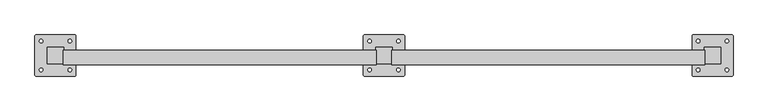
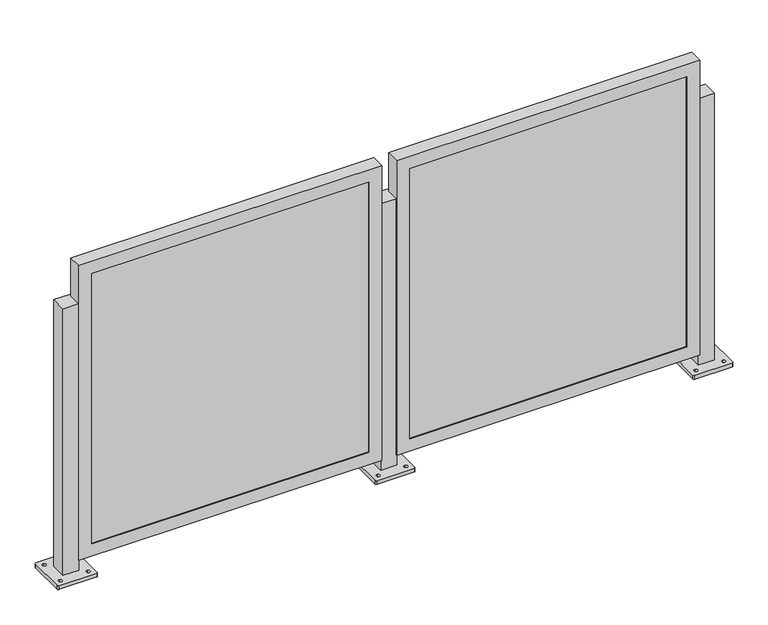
"""IFC4 building model written with IfcOpenShell, lengths in millimetres: railing geometry."""

from ifc_helpers import new_model, si_unit, frame, origin, place, context, project, spatial, polyline, circle_curve, outline, extrude, faceted_brep, source, transform, mapped, element, save
from ifc_brep_helpers import plane_surface, cylinder_surface, revolved_surface, advanced_brep


def railing_b0e1d4a2(model_context):
    return source(origin(), model_context, "Body", "SolidModel", [
        advanced_brep(
        [(-27024.2510122, -6796.0307329, 914.4), (-27024.2510122, -6846.8307329, 914.4), (-26973.4510122, -6846.8307329, 914.4), (-26973.4510122, -6796.0307329, 914.4), (-27062.3510123, -6881.7556919, 0.0), (-27062.3510123, -6761.105774, 0.0), (-27059.1759842, -6757.9307458, 0.0), (-26938.5260402, -6757.9307458, 0.0), (-26935.351012, -6761.105774, 0.0), (-26935.351012, -6881.7556919, 0.0), (-26938.5260402, -6884.9307201, 0.0), (-27059.1759842, -6884.9307201, 0.0), (-27043.3009997, -6871.4369876, 0.0), (-27043.3009997, -6860.3244751, 0.0), (-27043.3010106, -6782.5369832, 0.0), (-27043.3010106, -6771.4245016, 0.0), (-26954.4009988, -6871.4369861, 0.0), (-26954.4009988, -6860.3244754, 0.0), (-26954.4010097, -6782.5369817, 0.0), (-26954.4010097, -6771.4245019, 0.0), (-27024.2510122, -6796.0307329, 12.7), (-27024.2510122, -6846.8307329, 12.7), (-26973.4510122, -6846.8307329, 12.7), (-26973.4510122, -6796.0307329, 12.7), (-27062.3510123, -6881.7556919, 12.7), (-27059.1759842, -6884.9307201, 12.7), (-26938.5260402, -6884.9307201, 12.7), (-26935.351012, -6881.7556919, 12.7), (-26935.351012, -6761.105774, 12.7), (-26938.5260402, -6757.9307458, 12.7), (-27059.1759842, -6757.9307458, 12.7), (-27062.3510123, -6761.105774, 12.7), (-27043.3009997, -6871.4369876, 12.7), (-27043.3009997, -6860.3244751, 12.7), (-27043.3010106, -6782.5369832, 12.7), (-27043.3010106, -6771.4245016, 12.7), (-26954.4009988, -6871.4369861, 12.7), (-26954.4009988, -6860.3244754, 12.7), (-26954.4010097, -6782.5369817, 12.7), (-26954.4010097, -6771.4245019, 12.7)],
        [
            (0, 1),
            (1, 2),
            (2, 3),
            (3, 0),
            (4, 5),
            (5, 6, circle_curve(frame((-27059.1759842, -6761.105774, 0.0), z_axis=(0.0, 0.0, -1.0), x_axis=(0.0, 1.0, 0.0)), 3.1750282)),
            (6, 7),
            (7, 8, circle_curve(frame((-26938.5260402, -6761.105774, 0.0), z_axis=(0.0, 0.0, -1.0), x_axis=(0.0, 1.0, 0.0)), 3.1750282)),
            (8, 9),
            (9, 10, circle_curve(frame((-26938.5260402, -6881.7556919, 0.0), z_axis=(0.0, 0.0, -1.0), x_axis=(0.0, 1.0, 0.0)), 3.1750282)),
            (10, 11),
            (11, 4, circle_curve(frame((-27059.1759842, -6881.7556919, 0.0), z_axis=(0.0, 0.0, -1.0), x_axis=(0.0, 1.0, 0.0)), 3.1750282)),
            (12, 13, circle_curve(frame((-27043.3009997, -6865.8807314, 0.0), z_axis=(0.0, 0.0, 1.0), x_axis=(0.0, 1.0, 0.0)), 5.5562562)),
            (13, 12, circle_curve(frame((-27043.3009997, -6865.8807314, 0.0), z_axis=(0.0, 0.0, 1.0), x_axis=(0.0, 1.0, 0.0)), 5.5562562)),
            (14, 15, circle_curve(frame((-27043.3010106, -6776.9807424, 0.0), z_axis=(0.0, 0.0, 1.0), x_axis=(0.0, 1.0, 0.0)), 5.5562408)),
            (15, 14, circle_curve(frame((-27043.3010106, -6776.9807424, 0.0), z_axis=(0.0, 0.0, 1.0), x_axis=(0.0, 1.0, 0.0)), 5.5562408)),
            (16, 17, circle_curve(frame((-26954.4009988, -6865.8807307, 0.0), z_axis=(0.0, 0.0, 1.0), x_axis=(0.0, 1.0, 0.0)), 5.5562553)),
            (17, 16, circle_curve(frame((-26954.4009988, -6865.8807307, 0.0), z_axis=(0.0, 0.0, 1.0), x_axis=(0.0, 1.0, 0.0)), 5.5562553)),
            (18, 19, circle_curve(frame((-26954.4010097, -6776.9807418, 0.0), z_axis=(0.0, 0.0, 1.0), x_axis=(0.0, 1.0, 0.0)), 5.5562399)),
            (19, 18, circle_curve(frame((-26954.4010097, -6776.9807418, 0.0), z_axis=(0.0, 0.0, 1.0), x_axis=(0.0, 1.0, 0.0)), 5.5562399)),
            (0, 20),
            (20, 21),
            (21, 1),
            (21, 22),
            (22, 2),
            (22, 23),
            (23, 3),
            (23, 20),
            (24, 25, circle_curve(frame((-27059.1759842, -6881.7556919, 12.7), z_axis=(0.0, 0.0, 1.0), x_axis=(0.0, 1.0, 0.0)), 3.1750282)),
            (25, 26),
            (26, 27, circle_curve(frame((-26938.5260402, -6881.7556919, 12.7), z_axis=(0.0, 0.0, 1.0), x_axis=(0.0, 1.0, 0.0)), 3.1750282)),
            (27, 28),
            (28, 29, circle_curve(frame((-26938.5260402, -6761.105774, 12.7), z_axis=(0.0, 0.0, 1.0), x_axis=(0.0, 1.0, 0.0)), 3.1750282)),
            (29, 30),
            (30, 31, circle_curve(frame((-27059.1759842, -6761.105774, 12.7), z_axis=(0.0, 0.0, 1.0), x_axis=(0.0, 1.0, 0.0)), 3.1750282)),
            (31, 24),
            (32, 33, circle_curve(frame((-27043.3009997, -6865.8807314, 12.7), z_axis=(0.0, 0.0, -1.0), x_axis=(0.0, 1.0, 0.0)), 5.5562562)),
            (33, 32, circle_curve(frame((-27043.3009997, -6865.8807314, 12.7), z_axis=(0.0, 0.0, -1.0), x_axis=(0.0, 1.0, 0.0)), 5.5562562)),
            (34, 35, circle_curve(frame((-27043.3010106, -6776.9807424, 12.7), z_axis=(0.0, 0.0, -1.0), x_axis=(0.0, 1.0, 0.0)), 5.5562408)),
            (35, 34, circle_curve(frame((-27043.3010106, -6776.9807424, 12.7), z_axis=(0.0, 0.0, -1.0), x_axis=(0.0, 1.0, 0.0)), 5.5562408)),
            (36, 37, circle_curve(frame((-26954.4009988, -6865.8807307, 12.7), z_axis=(0.0, 0.0, -1.0), x_axis=(0.0, 1.0, 0.0)), 5.5562553)),
            (37, 36, circle_curve(frame((-26954.4009988, -6865.8807307, 12.7), z_axis=(0.0, 0.0, -1.0), x_axis=(0.0, 1.0, 0.0)), 5.5562553)),
            (38, 39, circle_curve(frame((-26954.4010097, -6776.9807418, 12.7), z_axis=(0.0, 0.0, -1.0), x_axis=(0.0, 1.0, 0.0)), 5.5562399)),
            (39, 38, circle_curve(frame((-26954.4010097, -6776.9807418, 12.7), z_axis=(0.0, 0.0, -1.0), x_axis=(0.0, 1.0, 0.0)), 5.5562399)),
            (24, 4),
            (11, 25),
            (10, 26),
            (9, 27),
            (8, 28),
            (7, 29),
            (6, 30),
            (5, 31),
            (32, 12),
            (13, 33),
            (34, 14),
            (15, 35),
            (36, 16),
            (17, 37),
            (38, 18),
            (19, 39),
        ],
        [
            plane_surface(frame((-27024.2510122, -6846.8307329, 914.4), z_axis=(0.0, 0.0, 1.0), x_axis=(0.0, -1.0, 0.0))),
            plane_surface(frame((-27024.2510122, -6846.8307329, 0.0), z_axis=(0.0, 0.0, -1.0), x_axis=(0.0, 1.0, 0.0))),
            plane_surface(frame((-27024.2510122, -6796.0307329, 914.4), z_axis=(-1.0, 0.0, 0.0), x_axis=(0.0, 0.0, -1.0))),
            plane_surface(frame((-27024.2510122, -6846.8307329, 914.4), z_axis=(0.0, -1.0, 0.0), x_axis=(0.0, 0.0, -1.0))),
            plane_surface(frame((-26973.4510122, -6846.8307329, 914.4), z_axis=(1.0, 0.0, 0.0), x_axis=(0.0, 0.0, -1.0))),
            plane_surface(frame((-26973.4510122, -6796.0307329, 914.4), z_axis=(0.0, 1.0, 0.0), x_axis=(0.0, 0.0, -1.0))),
            plane_surface(frame((-27059.1759842, -6878.5806638, 12.7), z_axis=(0.0, 0.0, 1.0), x_axis=(-1.0, 0.0, 0.0))),
            cylinder_surface(frame((-27059.1759842, -6881.7556919, 0.0), z_axis=(0.0, 0.0, 1.0), x_axis=(0.0, 1.0, 0.0)), 3.1750282),
            plane_surface(frame((-27059.1759842, -6884.9307201, 12.7), z_axis=(1.1945386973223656e-12, -1.0, 0.0), x_axis=(0.0, 0.0, -1.0))),
            cylinder_surface(frame((-26938.5260402, -6881.7556919, 0.0), z_axis=(0.0, 0.0, 1.0), x_axis=(0.0, 1.0, 0.0)), 3.1750282),
            plane_surface(frame((-26935.351012, -6881.7556919, 12.7), z_axis=(1.0, 0.0, 0.0), x_axis=(0.0, 0.0, -1.0))),
            cylinder_surface(frame((-26938.5260402, -6761.105774, 0.0), z_axis=(0.0, 0.0, 1.0), x_axis=(0.0, 1.0, 0.0)), 3.1750282),
            plane_surface(frame((-26938.5260402, -6757.9307458, 12.7), z_axis=(-1.1946088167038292e-12, 1.0, 0.0), x_axis=(0.0, 0.0, -1.0))),
            cylinder_surface(frame((-27059.1759842, -6761.105774, 0.0), z_axis=(0.0, 0.0, 1.0), x_axis=(0.0, 1.0, 0.0)), 3.1750282),
            plane_surface(frame((-27062.3510123, -6761.105774, 12.7), z_axis=(-1.0, 0.0, 0.0), x_axis=(0.0, 0.0, -1.0))),
            revolved_surface(polyline([(-27043.3009997, -6860.3244752, 0.0), (-27043.3009997, -6860.3244752, 12.7)]), (-27043.3009997, -6865.8807314, 0.0), (0.0, 0.0, -1.0)),
            revolved_surface(polyline([(-27043.3010106, -6771.4245016, 0.0), (-27043.3010106, -6771.4245016, 12.7)]), (-27043.3010106, -6776.9807424, 0.0), (0.0, 0.0, -1.0)),
            revolved_surface(polyline([(-26954.4009988, -6860.3244754, 0.0), (-26954.4009988, -6860.3244754, 12.7)]), (-26954.4009988, -6865.8807307, 0.0), (0.0, 0.0, -1.0)),
            revolved_surface(polyline([(-26954.4010097, -6771.4245019, 0.0), (-26954.4010097, -6771.4245019, 12.7)]), (-26954.4010097, -6776.9807418, 0.0), (0.0, 0.0, -1.0)),
        ],
        [
            (0, [[1, 2, 3, 4]]),
            (1, [[5, 6, 7, 8, 9, 10, 11, 12], [13, 14], [15, 16], [17, 18], [19, 20]]),
            (2, [[-1, 21, 22, 23]]),
            (3, [[-2, -23, 24, 25]]),
            (4, [[-3, -25, 26, 27]]),
            (5, [[-4, -27, 28, -21]]),
            (6, [[29, 30, 31, 32, 33, 34, 35, 36], [-22, -28, -26, -24], [37, 38], [39, 40], [41, 42], [43, 44]]),
            (7, [[-29, 45, -12, 46]]),
            (8, [[-30, -46, -11, 47]]),
            (9, [[-31, -47, -10, 48]]),
            (10, [[-32, -48, -9, 49]]),
            (11, [[-33, -49, -8, 50]]),
            (12, [[-34, -50, -7, 51]]),
            (13, [[-35, -51, -6, 52]]),
            (14, [[-36, -52, -5, -45]]),
            (15, [[-37, 53, -14, 54]]),
            (15, [[-38, -54, -13, -53]]),
            (16, [[-39, 55, -16, 56]]),
            (16, [[-40, -56, -15, -55]]),
            (17, [[-41, 57, -18, 58]]),
            (17, [[-42, -58, -17, -57]]),
            (18, [[-43, 59, -20, 60]]),
            (18, [[-44, -60, -19, -59]]),
        ],
    ),
        faceted_brep([(-27990.6554656, -6849.5739329, 47.625), (-27022.2804656, -6849.5739329, 47.625), (-27022.2804656, -6849.5739329, 1044.575), (-27990.6554656, -6849.5739329, 1044.575), (-27949.3804656, -6849.5739329, 1003.3), (-27063.5554656, -6849.5739329, 1003.3), (-27063.5554656, -6849.5739329, 88.9), (-27949.3804656, -6849.5739329, 88.9), (-27949.3804656, -6846.8307329, 1003.3), (-27949.3804656, -6846.8307329, 88.9), (-27990.6554656, -6805.7006364, 1044.575), (-27990.6554656, -6805.7006364, 47.625), (-27987.4804656, -6805.7006364, 1041.4), (-27987.4804656, -6846.8307329, 1041.4), (-27987.4804656, -6846.8307329, 50.8), (-27987.4804656, -6805.7006364, 50.8), (-27063.5554656, -6846.8307329, 88.9), (-27022.2804656, -6805.7006364, 47.625), (-27025.4554656, -6846.8307329, 50.8), (-27025.4554656, -6805.7006364, 50.8), (-27063.5554656, -6846.8307329, 1003.3), (-27022.2804656, -6805.7006364, 1044.575), (-27025.4554656, -6846.8307329, 1041.4), (-27025.4554656, -6805.7006364, 1041.4)], [[[0, 1, 2, 3], [4, 5, 6, 7]], [[8, 4, 7, 9]], [[3, 10, 11, 0]], [[12, 13, 14, 15]], [[9, 7, 6, 16]], [[0, 11, 17, 1]], [[15, 14, 18, 19]], [[16, 6, 5, 20]], [[1, 17, 21, 2]], [[19, 18, 22, 23]], [[20, 5, 4, 8]], [[10, 21, 17, 11], [15, 19, 23, 12]], [[2, 21, 10, 3]], [[13, 22, 18, 14], [9, 16, 20, 8]], [[23, 22, 13, 12]]]),
        extrude(outline(polyline([(-27987.4804656, -6837.3057329), (-27025.4554656, -6837.3057329), (-27025.4554656, -6846.8307329), (-27987.4804656, -6846.8307329), (-27987.4804656, -6837.3057329)])), frame((0.0, 0.0, 50.8), z_axis=(0.0, 0.0, 1.0), x_axis=(1.0, 0.0, 0.0)), (0.0, 0.0, 1.0), 990.6),
        advanced_brep(
        [(-28040.2510122, -6796.0307329, 914.4), (-28040.2510122, -6846.8307329, 914.4), (-27989.4510122, -6846.8307329, 914.4), (-27989.4510122, -6796.0307329, 914.4), (-28078.3510123, -6881.7556919, 0.0), (-28078.3510123, -6761.105774, 0.0), (-28075.1759842, -6757.9307458, 0.0), (-27954.5260402, -6757.9307458, 0.0), (-27951.351012, -6761.105774, 0.0), (-27951.351012, -6881.7556919, 0.0), (-27954.5260402, -6884.9307201, 0.0), (-28075.1759842, -6884.9307201, 0.0), (-28059.3009997, -6871.4369876, 0.0), (-28059.3009997, -6860.3244751, 0.0), (-28059.3010106, -6782.5369832, 0.0), (-28059.3010106, -6771.4245016, 0.0), (-27970.4009988, -6871.4369861, 0.0), (-27970.4009988, -6860.3244754, 0.0), (-27970.4010097, -6782.5369817, 0.0), (-27970.4010097, -6771.4245019, 0.0), (-28040.2510122, -6796.0307329, 12.7), (-28040.2510122, -6846.8307329, 12.7), (-27989.4510122, -6846.8307329, 12.7), (-27989.4510122, -6796.0307329, 12.7), (-28078.3510123, -6881.7556919, 12.7), (-28075.1759842, -6884.9307201, 12.7), (-27954.5260402, -6884.9307201, 12.7), (-27951.351012, -6881.7556919, 12.7), (-27951.351012, -6761.105774, 12.7), (-27954.5260402, -6757.9307458, 12.7), (-28075.1759842, -6757.9307458, 12.7), (-28078.3510123, -6761.105774, 12.7), (-28059.3009997, -6871.4369876, 12.7), (-28059.3009997, -6860.3244751, 12.7), (-28059.3010106, -6782.5369832, 12.7), (-28059.3010106, -6771.4245016, 12.7), (-27970.4009988, -6871.4369861, 12.7), (-27970.4009988, -6860.3244754, 12.7), (-27970.4010097, -6782.5369817, 12.7), (-27970.4010097, -6771.4245019, 12.7)],
        [
            (0, 1),
            (1, 2),
            (2, 3),
            (3, 0),
            (4, 5),
            (5, 6, circle_curve(frame((-28075.1759842, -6761.105774, 0.0), z_axis=(0.0, 0.0, -1.0), x_axis=(0.0, 1.0, 0.0)), 3.1750282)),
            (6, 7),
            (7, 8, circle_curve(frame((-27954.5260402, -6761.105774, 0.0), z_axis=(0.0, 0.0, -1.0), x_axis=(0.0, 1.0, 0.0)), 3.1750282)),
            (8, 9),
            (9, 10, circle_curve(frame((-27954.5260402, -6881.7556919, 0.0), z_axis=(0.0, 0.0, -1.0), x_axis=(0.0, 1.0, 0.0)), 3.1750282)),
            (10, 11),
            (11, 4, circle_curve(frame((-28075.1759842, -6881.7556919, 0.0), z_axis=(0.0, 0.0, -1.0), x_axis=(0.0, 1.0, 0.0)), 3.1750282)),
            (12, 13, circle_curve(frame((-28059.3009997, -6865.8807314, 0.0), z_axis=(0.0, 0.0, 1.0), x_axis=(0.0, 1.0, 0.0)), 5.5562562)),
            (13, 12, circle_curve(frame((-28059.3009997, -6865.8807314, 0.0), z_axis=(0.0, 0.0, 1.0), x_axis=(0.0, 1.0, 0.0)), 5.5562562)),
            (14, 15, circle_curve(frame((-28059.3010106, -6776.9807424, 0.0), z_axis=(0.0, 0.0, 1.0), x_axis=(0.0, 1.0, 0.0)), 5.5562408)),
            (15, 14, circle_curve(frame((-28059.3010106, -6776.9807424, 0.0), z_axis=(0.0, 0.0, 1.0), x_axis=(0.0, 1.0, 0.0)), 5.5562408)),
            (16, 17, circle_curve(frame((-27970.4009988, -6865.8807307, 0.0), z_axis=(0.0, 0.0, 1.0), x_axis=(0.0, 1.0, 0.0)), 5.5562553)),
            (17, 16, circle_curve(frame((-27970.4009988, -6865.8807307, 0.0), z_axis=(0.0, 0.0, 1.0), x_axis=(0.0, 1.0, 0.0)), 5.5562553)),
            (18, 19, circle_curve(frame((-27970.4010097, -6776.9807418, 0.0), z_axis=(0.0, 0.0, 1.0), x_axis=(0.0, 1.0, 0.0)), 5.5562399)),
            (19, 18, circle_curve(frame((-27970.4010097, -6776.9807418, 0.0), z_axis=(0.0, 0.0, 1.0), x_axis=(0.0, 1.0, 0.0)), 5.5562399)),
            (0, 20),
            (20, 21),
            (21, 1),
            (21, 22),
            (22, 2),
            (22, 23),
            (23, 3),
            (23, 20),
            (24, 25, circle_curve(frame((-28075.1759842, -6881.7556919, 12.7), z_axis=(0.0, 0.0, 1.0), x_axis=(0.0, 1.0, 0.0)), 3.1750282)),
            (25, 26),
            (26, 27, circle_curve(frame((-27954.5260402, -6881.7556919, 12.7), z_axis=(0.0, 0.0, 1.0), x_axis=(0.0, 1.0, 0.0)), 3.1750282)),
            (27, 28),
            (28, 29, circle_curve(frame((-27954.5260402, -6761.105774, 12.7), z_axis=(0.0, 0.0, 1.0), x_axis=(0.0, 1.0, 0.0)), 3.1750282)),
            (29, 30),
            (30, 31, circle_curve(frame((-28075.1759842, -6761.105774, 12.7), z_axis=(0.0, 0.0, 1.0), x_axis=(0.0, 1.0, 0.0)), 3.1750282)),
            (31, 24),
            (32, 33, circle_curve(frame((-28059.3009997, -6865.8807314, 12.7), z_axis=(0.0, 0.0, -1.0), x_axis=(0.0, 1.0, 0.0)), 5.5562562)),
            (33, 32, circle_curve(frame((-28059.3009997, -6865.8807314, 12.7), z_axis=(0.0, 0.0, -1.0), x_axis=(0.0, 1.0, 0.0)), 5.5562562)),
            (34, 35, circle_curve(frame((-28059.3010106, -6776.9807424, 12.7), z_axis=(0.0, 0.0, -1.0), x_axis=(0.0, 1.0, 0.0)), 5.5562408)),
            (35, 34, circle_curve(frame((-28059.3010106, -6776.9807424, 12.7), z_axis=(0.0, 0.0, -1.0), x_axis=(0.0, 1.0, 0.0)), 5.5562408)),
            (36, 37, circle_curve(frame((-27970.4009988, -6865.8807307, 12.7), z_axis=(0.0, 0.0, -1.0), x_axis=(0.0, 1.0, 0.0)), 5.5562553)),
            (37, 36, circle_curve(frame((-27970.4009988, -6865.8807307, 12.7), z_axis=(0.0, 0.0, -1.0), x_axis=(0.0, 1.0, 0.0)), 5.5562553)),
            (38, 39, circle_curve(frame((-27970.4010097, -6776.9807418, 12.7), z_axis=(0.0, 0.0, -1.0), x_axis=(0.0, 1.0, 0.0)), 5.5562399)),
            (39, 38, circle_curve(frame((-27970.4010097, -6776.9807418, 12.7), z_axis=(0.0, 0.0, -1.0), x_axis=(0.0, 1.0, 0.0)), 5.5562399)),
            (24, 4),
            (11, 25),
            (10, 26),
            (9, 27),
            (8, 28),
            (7, 29),
            (6, 30),
            (5, 31),
            (32, 12),
            (13, 33),
            (34, 14),
            (15, 35),
            (36, 16),
            (17, 37),
            (38, 18),
            (19, 39),
        ],
        [
            plane_surface(frame((-28040.2510122, -6846.8307329, 914.4), z_axis=(0.0, 0.0, 1.0), x_axis=(0.0, -1.0, 0.0))),
            plane_surface(frame((-28040.2510122, -6846.8307329, 0.0), z_axis=(0.0, 0.0, -1.0), x_axis=(0.0, 1.0, 0.0))),
            plane_surface(frame((-28040.2510122, -6796.0307329, 914.4), z_axis=(-1.0, 0.0, 0.0), x_axis=(0.0, 0.0, -1.0))),
            plane_surface(frame((-28040.2510122, -6846.8307329, 914.4), z_axis=(0.0, -1.0, 0.0), x_axis=(0.0, 0.0, -1.0))),
            plane_surface(frame((-27989.4510122, -6846.8307329, 914.4), z_axis=(1.0, 0.0, 0.0), x_axis=(0.0, 0.0, -1.0))),
            plane_surface(frame((-27989.4510122, -6796.0307329, 914.4), z_axis=(0.0, 1.0, 0.0), x_axis=(0.0, 0.0, -1.0))),
            plane_surface(frame((-28075.1759842, -6878.5806638, 12.7), z_axis=(0.0, 0.0, 1.0), x_axis=(-1.0, 0.0, 0.0))),
            cylinder_surface(frame((-28075.1759842, -6881.7556919, 0.0), z_axis=(0.0, 0.0, 1.0), x_axis=(0.0, 1.0, 0.0)), 3.1750282),
            plane_surface(frame((-28075.1759842, -6884.9307201, 12.7), z_axis=(1.1945386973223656e-12, -1.0, 0.0), x_axis=(0.0, 0.0, -1.0))),
            cylinder_surface(frame((-27954.5260402, -6881.7556919, 0.0), z_axis=(0.0, 0.0, 1.0), x_axis=(0.0, 1.0, 0.0)), 3.1750282),
            plane_surface(frame((-27951.351012, -6881.7556919, 12.7), z_axis=(1.0, 0.0, 0.0), x_axis=(0.0, 0.0, -1.0))),
            cylinder_surface(frame((-27954.5260402, -6761.105774, 0.0), z_axis=(0.0, 0.0, 1.0), x_axis=(0.0, 1.0, 0.0)), 3.1750282),
            plane_surface(frame((-27954.5260402, -6757.9307458, 12.7), z_axis=(-1.1946088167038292e-12, 1.0, 0.0), x_axis=(0.0, 0.0, -1.0))),
            cylinder_surface(frame((-28075.1759842, -6761.105774, 0.0), z_axis=(0.0, 0.0, 1.0), x_axis=(0.0, 1.0, 0.0)), 3.1750282),
            plane_surface(frame((-28078.3510123, -6761.105774, 12.7), z_axis=(-1.0, 0.0, 0.0), x_axis=(0.0, 0.0, -1.0))),
            revolved_surface(polyline([(-28059.3009997, -6860.3244752, 0.0), (-28059.3009997, -6860.3244752, 12.7)]), (-28059.3009997, -6865.8807314, 0.0), (0.0, 0.0, -1.0)),
            revolved_surface(polyline([(-28059.3010106, -6771.4245016, 0.0), (-28059.3010106, -6771.4245016, 12.7)]), (-28059.3010106, -6776.9807424, 0.0), (0.0, 0.0, -1.0)),
            revolved_surface(polyline([(-27970.4009988, -6860.3244754, 0.0), (-27970.4009988, -6860.3244754, 12.7)]), (-27970.4009988, -6865.8807307, 0.0), (0.0, 0.0, -1.0)),
            revolved_surface(polyline([(-27970.4010097, -6771.4245019, 0.0), (-27970.4010097, -6771.4245019, 12.7)]), (-27970.4010097, -6776.9807418, 0.0), (0.0, 0.0, -1.0)),
        ],
        [
            (0, [[1, 2, 3, 4]]),
            (1, [[5, 6, 7, 8, 9, 10, 11, 12], [13, 14], [15, 16], [17, 18], [19, 20]]),
            (2, [[-1, 21, 22, 23]]),
            (3, [[-2, -23, 24, 25]]),
            (4, [[-3, -25, 26, 27]]),
            (5, [[-4, -27, 28, -21]]),
            (6, [[29, 30, 31, 32, 33, 34, 35, 36], [-22, -28, -26, -24], [37, 38], [39, 40], [41, 42], [43, 44]]),
            (7, [[-29, 45, -12, 46]]),
            (8, [[-30, -46, -11, 47]]),
            (9, [[-31, -47, -10, 48]]),
            (10, [[-32, -48, -9, 49]]),
            (11, [[-33, -49, -8, 50]]),
            (12, [[-34, -50, -7, 51]]),
            (13, [[-35, -51, -6, 52]]),
            (14, [[-36, -52, -5, -45]]),
            (15, [[-37, 53, -14, 54]]),
            (15, [[-38, -54, -13, -53]]),
            (16, [[-39, 55, -16, 56]]),
            (16, [[-40, -56, -15, -55]]),
            (17, [[-41, 57, -18, 58]]),
            (17, [[-42, -58, -17, -57]]),
            (18, [[-43, 59, -20, 60]]),
            (18, [[-44, -60, -19, -59]]),
        ],
    ),
        faceted_brep([(-29006.6554656, -6849.5739329, 47.625), (-28038.2804656, -6849.5739329, 47.625), (-28038.2804656, -6849.5739329, 1044.575), (-29006.6554656, -6849.5739329, 1044.575), (-28965.3804656, -6849.5739329, 1003.3), (-28079.5554656, -6849.5739329, 1003.3), (-28079.5554656, -6849.5739329, 88.9), (-28965.3804656, -6849.5739329, 88.9), (-28965.3804656, -6846.8307329, 1003.3), (-28965.3804656, -6846.8307329, 88.9), (-29006.6554656, -6805.7006364, 1044.575), (-29006.6554656, -6805.7006364, 47.625), (-29003.4804656, -6805.7006364, 1041.4), (-29003.4804656, -6846.8307329, 1041.4), (-29003.4804656, -6846.8307329, 50.8), (-29003.4804656, -6805.7006364, 50.8), (-28079.5554656, -6846.8307329, 88.9), (-28038.2804656, -6805.7006364, 47.625), (-28041.4554656, -6846.8307329, 50.8), (-28041.4554656, -6805.7006364, 50.8), (-28079.5554656, -6846.8307329, 1003.3), (-28038.2804656, -6805.7006364, 1044.575), (-28041.4554656, -6846.8307329, 1041.4), (-28041.4554656, -6805.7006364, 1041.4)], [[[0, 1, 2, 3], [4, 5, 6, 7]], [[8, 4, 7, 9]], [[3, 10, 11, 0]], [[12, 13, 14, 15]], [[9, 7, 6, 16]], [[0, 11, 17, 1]], [[15, 14, 18, 19]], [[16, 6, 5, 20]], [[1, 17, 21, 2]], [[19, 18, 22, 23]], [[20, 5, 4, 8]], [[10, 21, 17, 11], [15, 19, 23, 12]], [[2, 21, 10, 3]], [[13, 22, 18, 14], [9, 16, 20, 8]], [[23, 22, 13, 12]]]),
        extrude(outline(polyline([(-29003.4804656, -6837.3057329), (-28041.4554656, -6837.3057329), (-28041.4554656, -6846.8307329), (-29003.4804656, -6846.8307329), (-29003.4804656, -6837.3057329)])), frame((0.0, 0.0, 50.8), z_axis=(0.0, 0.0, 1.0), x_axis=(1.0, 0.0, 0.0)), (0.0, 0.0, 1.0), 990.6),
        advanced_brep(
        [(-29056.2510122, -6796.0307329, 914.4), (-29056.2510122, -6846.8307329, 914.4), (-29005.4510122, -6846.8307329, 914.4), (-29005.4510122, -6796.0307329, 914.4), (-29094.3510123, -6881.7556919, 0.0), (-29094.3510123, -6761.105774, 0.0), (-29091.1759842, -6757.9307458, 0.0), (-28970.5260402, -6757.9307458, 0.0), (-28967.351012, -6761.105774, 0.0), (-28967.351012, -6881.7556919, 0.0), (-28970.5260402, -6884.9307201, 0.0), (-29091.1759842, -6884.9307201, 0.0), (-29075.3009997, -6871.4369876, 0.0), (-29075.3009997, -6860.3244751, 0.0), (-29075.3010106, -6782.5369832, 0.0), (-29075.3010106, -6771.4245016, 0.0), (-28986.4009988, -6871.4369861, 0.0), (-28986.4009988, -6860.3244754, 0.0), (-28986.4010097, -6782.5369817, 0.0), (-28986.4010097, -6771.4245019, 0.0), (-29056.2510122, -6796.0307329, 12.7), (-29056.2510122, -6846.8307329, 12.7), (-29005.4510122, -6846.8307329, 12.7), (-29005.4510122, -6796.0307329, 12.7), (-29094.3510123, -6881.7556919, 12.7), (-29091.1759842, -6884.9307201, 12.7), (-28970.5260402, -6884.9307201, 12.7), (-28967.351012, -6881.7556919, 12.7), (-28967.351012, -6761.105774, 12.7), (-28970.5260402, -6757.9307458, 12.7), (-29091.1759842, -6757.9307458, 12.7), (-29094.3510123, -6761.105774, 12.7), (-29075.3009997, -6871.4369876, 12.7), (-29075.3009997, -6860.3244751, 12.7), (-29075.3010106, -6782.5369832, 12.7), (-29075.3010106, -6771.4245016, 12.7), (-28986.4009988, -6871.4369861, 12.7), (-28986.4009988, -6860.3244754, 12.7), (-28986.4010097, -6782.5369817, 12.7), (-28986.4010097, -6771.4245019, 12.7)],
        [
            (0, 1),
            (1, 2),
            (2, 3),
            (3, 0),
            (4, 5),
            (5, 6, circle_curve(frame((-29091.1759842, -6761.105774, 0.0), z_axis=(0.0, 0.0, -1.0), x_axis=(0.0, 1.0, 0.0)), 3.1750282)),
            (6, 7),
            (7, 8, circle_curve(frame((-28970.5260402, -6761.105774, 0.0), z_axis=(0.0, 0.0, -1.0), x_axis=(0.0, 1.0, 0.0)), 3.1750282)),
            (8, 9),
            (9, 10, circle_curve(frame((-28970.5260402, -6881.7556919, 0.0), z_axis=(0.0, 0.0, -1.0), x_axis=(0.0, 1.0, 0.0)), 3.1750282)),
            (10, 11),
            (11, 4, circle_curve(frame((-29091.1759842, -6881.7556919, 0.0), z_axis=(0.0, 0.0, -1.0), x_axis=(0.0, 1.0, 0.0)), 3.1750282)),
            (12, 13, circle_curve(frame((-29075.3009997, -6865.8807314, 0.0), z_axis=(0.0, 0.0, 1.0), x_axis=(0.0, 1.0, 0.0)), 5.5562562)),
            (13, 12, circle_curve(frame((-29075.3009997, -6865.8807314, 0.0), z_axis=(0.0, 0.0, 1.0), x_axis=(0.0, 1.0, 0.0)), 5.5562562)),
            (14, 15, circle_curve(frame((-29075.3010106, -6776.9807424, 0.0), z_axis=(0.0, 0.0, 1.0), x_axis=(0.0, 1.0, 0.0)), 5.5562408)),
            (15, 14, circle_curve(frame((-29075.3010106, -6776.9807424, 0.0), z_axis=(0.0, 0.0, 1.0), x_axis=(0.0, 1.0, 0.0)), 5.5562408)),
            (16, 17, circle_curve(frame((-28986.4009988, -6865.8807307, 0.0), z_axis=(0.0, 0.0, 1.0), x_axis=(0.0, 1.0, 0.0)), 5.5562553)),
            (17, 16, circle_curve(frame((-28986.4009988, -6865.8807307, 0.0), z_axis=(0.0, 0.0, 1.0), x_axis=(0.0, 1.0, 0.0)), 5.5562553)),
            (18, 19, circle_curve(frame((-28986.4010097, -6776.9807418, 0.0), z_axis=(0.0, 0.0, 1.0), x_axis=(0.0, 1.0, 0.0)), 5.5562399)),
            (19, 18, circle_curve(frame((-28986.4010097, -6776.9807418, 0.0), z_axis=(0.0, 0.0, 1.0), x_axis=(0.0, 1.0, 0.0)), 5.5562399)),
            (0, 20),
            (20, 21),
            (21, 1),
            (21, 22),
            (22, 2),
            (22, 23),
            (23, 3),
            (23, 20),
            (24, 25, circle_curve(frame((-29091.1759842, -6881.7556919, 12.7), z_axis=(0.0, 0.0, 1.0), x_axis=(0.0, 1.0, 0.0)), 3.1750282)),
            (25, 26),
            (26, 27, circle_curve(frame((-28970.5260402, -6881.7556919, 12.7), z_axis=(0.0, 0.0, 1.0), x_axis=(0.0, 1.0, 0.0)), 3.1750282)),
            (27, 28),
            (28, 29, circle_curve(frame((-28970.5260402, -6761.105774, 12.7), z_axis=(0.0, 0.0, 1.0), x_axis=(0.0, 1.0, 0.0)), 3.1750282)),
            (29, 30),
            (30, 31, circle_curve(frame((-29091.1759842, -6761.105774, 12.7), z_axis=(0.0, 0.0, 1.0), x_axis=(0.0, 1.0, 0.0)), 3.1750282)),
            (31, 24),
            (32, 33, circle_curve(frame((-29075.3009997, -6865.8807314, 12.7), z_axis=(0.0, 0.0, -1.0), x_axis=(0.0, 1.0, 0.0)), 5.5562562)),
            (33, 32, circle_curve(frame((-29075.3009997, -6865.8807314, 12.7), z_axis=(0.0, 0.0, -1.0), x_axis=(0.0, 1.0, 0.0)), 5.5562562)),
            (34, 35, circle_curve(frame((-29075.3010106, -6776.9807424, 12.7), z_axis=(0.0, 0.0, -1.0), x_axis=(0.0, 1.0, 0.0)), 5.5562408)),
            (35, 34, circle_curve(frame((-29075.3010106, -6776.9807424, 12.7), z_axis=(0.0, 0.0, -1.0), x_axis=(0.0, 1.0, 0.0)), 5.5562408)),
            (36, 37, circle_curve(frame((-28986.4009988, -6865.8807307, 12.7), z_axis=(0.0, 0.0, -1.0), x_axis=(0.0, 1.0, 0.0)), 5.5562553)),
            (37, 36, circle_curve(frame((-28986.4009988, -6865.8807307, 12.7), z_axis=(0.0, 0.0, -1.0), x_axis=(0.0, 1.0, 0.0)), 5.5562553)),
            (38, 39, circle_curve(frame((-28986.4010097, -6776.9807418, 12.7), z_axis=(0.0, 0.0, -1.0), x_axis=(0.0, 1.0, 0.0)), 5.5562399)),
            (39, 38, circle_curve(frame((-28986.4010097, -6776.9807418, 12.7), z_axis=(0.0, 0.0, -1.0), x_axis=(0.0, 1.0, 0.0)), 5.5562399)),
            (24, 4),
            (11, 25),
            (10, 26),
            (9, 27),
            (8, 28),
            (7, 29),
            (6, 30),
            (5, 31),
            (32, 12),
            (13, 33),
            (34, 14),
            (15, 35),
            (36, 16),
            (17, 37),
            (38, 18),
            (19, 39),
        ],
        [
            plane_surface(frame((-29056.2510122, -6846.8307329, 914.4), z_axis=(0.0, 0.0, 1.0), x_axis=(0.0, -1.0, 0.0))),
            plane_surface(frame((-29056.2510122, -6846.8307329, 0.0), z_axis=(0.0, 0.0, -1.0), x_axis=(0.0, 1.0, 0.0))),
            plane_surface(frame((-29056.2510122, -6796.0307329, 914.4), z_axis=(-1.0, 0.0, 0.0), x_axis=(0.0, 0.0, -1.0))),
            plane_surface(frame((-29056.2510122, -6846.8307329, 914.4), z_axis=(0.0, -1.0, 0.0), x_axis=(0.0, 0.0, -1.0))),
            plane_surface(frame((-29005.4510122, -6846.8307329, 914.4), z_axis=(1.0, 0.0, 0.0), x_axis=(0.0, 0.0, -1.0))),
            plane_surface(frame((-29005.4510122, -6796.0307329, 914.4), z_axis=(0.0, 1.0, 0.0), x_axis=(0.0, 0.0, -1.0))),
            plane_surface(frame((-29091.1759842, -6878.5806638, 12.7), z_axis=(0.0, 0.0, 1.0), x_axis=(-1.0, 0.0, 0.0))),
            cylinder_surface(frame((-29091.1759842, -6881.7556919, 0.0), z_axis=(0.0, 0.0, 1.0), x_axis=(0.0, 1.0, 0.0)), 3.1750282),
            plane_surface(frame((-29091.1759842, -6884.9307201, 12.7), z_axis=(1.1945386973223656e-12, -1.0, 0.0), x_axis=(0.0, 0.0, -1.0))),
            cylinder_surface(frame((-28970.5260402, -6881.7556919, 0.0), z_axis=(0.0, 0.0, 1.0), x_axis=(0.0, 1.0, 0.0)), 3.1750282),
            plane_surface(frame((-28967.351012, -6881.7556919, 12.7), z_axis=(1.0, 0.0, 0.0), x_axis=(0.0, 0.0, -1.0))),
            cylinder_surface(frame((-28970.5260402, -6761.105774, 0.0), z_axis=(0.0, 0.0, 1.0), x_axis=(0.0, 1.0, 0.0)), 3.1750282),
            plane_surface(frame((-28970.5260402, -6757.9307458, 12.7), z_axis=(-1.1946088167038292e-12, 1.0, 0.0), x_axis=(0.0, 0.0, -1.0))),
            cylinder_surface(frame((-29091.1759842, -6761.105774, 0.0), z_axis=(0.0, 0.0, 1.0), x_axis=(0.0, 1.0, 0.0)), 3.1750282),
            plane_surface(frame((-29094.3510123, -6761.105774, 12.7), z_axis=(-1.0, 0.0, 0.0), x_axis=(0.0, 0.0, -1.0))),
            revolved_surface(polyline([(-29075.3009997, -6860.3244752, 0.0), (-29075.3009997, -6860.3244752, 12.7)]), (-29075.3009997, -6865.8807314, 0.0), (0.0, 0.0, -1.0)),
            revolved_surface(polyline([(-29075.3010106, -6771.4245016, 0.0), (-29075.3010106, -6771.4245016, 12.7)]), (-29075.3010106, -6776.9807424, 0.0), (0.0, 0.0, -1.0)),
            revolved_surface(polyline([(-28986.4009988, -6860.3244754, 0.0), (-28986.4009988, -6860.3244754, 12.7)]), (-28986.4009988, -6865.8807307, 0.0), (0.0, 0.0, -1.0)),
            revolved_surface(polyline([(-28986.4010097, -6771.4245019, 0.0), (-28986.4010097, -6771.4245019, 12.7)]), (-28986.4010097, -6776.9807418, 0.0), (0.0, 0.0, -1.0)),
        ],
        [
            (0, [[1, 2, 3, 4]]),
            (1, [[5, 6, 7, 8, 9, 10, 11, 12], [13, 14], [15, 16], [17, 18], [19, 20]]),
            (2, [[-1, 21, 22, 23]]),
            (3, [[-2, -23, 24, 25]]),
            (4, [[-3, -25, 26, 27]]),
            (5, [[-4, -27, 28, -21]]),
            (6, [[29, 30, 31, 32, 33, 34, 35, 36], [-22, -28, -26, -24], [37, 38], [39, 40], [41, 42], [43, 44]]),
            (7, [[-29, 45, -12, 46]]),
            (8, [[-30, -46, -11, 47]]),
            (9, [[-31, -47, -10, 48]]),
            (10, [[-32, -48, -9, 49]]),
            (11, [[-33, -49, -8, 50]]),
            (12, [[-34, -50, -7, 51]]),
            (13, [[-35, -51, -6, 52]]),
            (14, [[-36, -52, -5, -45]]),
            (15, [[-37, 53, -14, 54]]),
            (15, [[-38, -54, -13, -53]]),
            (16, [[-39, 55, -16, 56]]),
            (16, [[-40, -56, -15, -55]]),
            (17, [[-41, 57, -18, 58]]),
            (17, [[-42, -58, -17, -57]]),
            (18, [[-43, 59, -20, 60]]),
            (18, [[-44, -60, -19, -59]]),
        ],
    ),
    ])


if __name__ == "__main__":
    model = new_model("IFC4")
    model_context = context("Model", 3, world=origin())
    ifc_project = project(units=[si_unit("LENGTHUNIT", "METRE", prefix="MILLI")], contexts=[model_context])
    site = spatial("IfcSite", under=ifc_project)
    building = spatial("IfcBuilding", under=site)
    placement = place(None, origin())
    railing_shape = railing_b0e1d4a2(model_context)
    element("IfcRailing", 1, ObjectType="Railing - Amico Architectural - Perforated Railing - 3/16\" Circle - 5/16\" Staggered", at=placement, inside=building, context=model_context, shape_type="MappedRepresentation", body=[
        mapped(railing_shape, transform((0.0, 0.0, 0.0), x_axis=(1.0, 0.0, 0.0), y_axis=(0.0, 1.0, 0.0), z_axis=(0.0, 0.0, 1.0))),
    ])
    save(model, "model.ifc")
